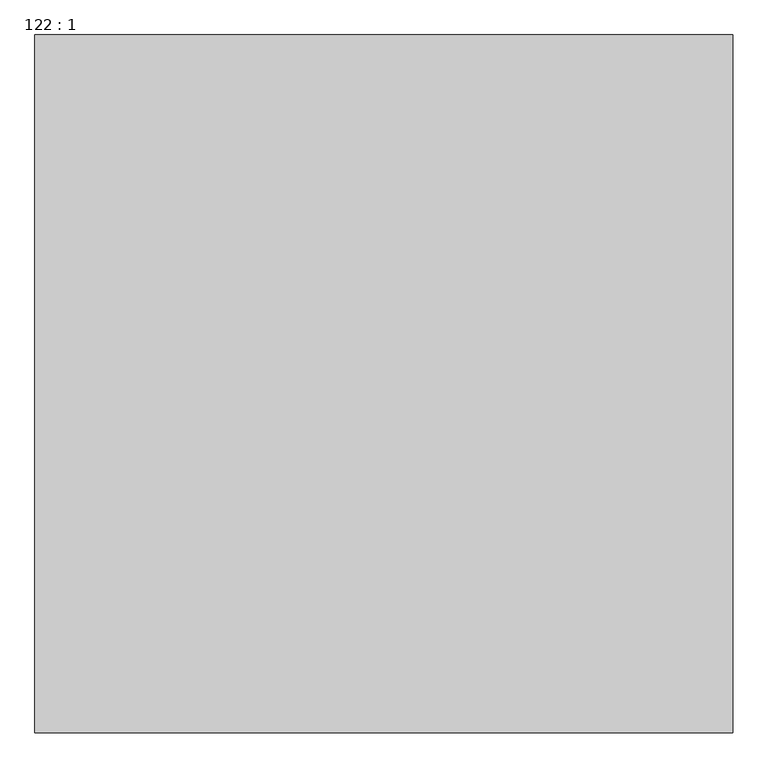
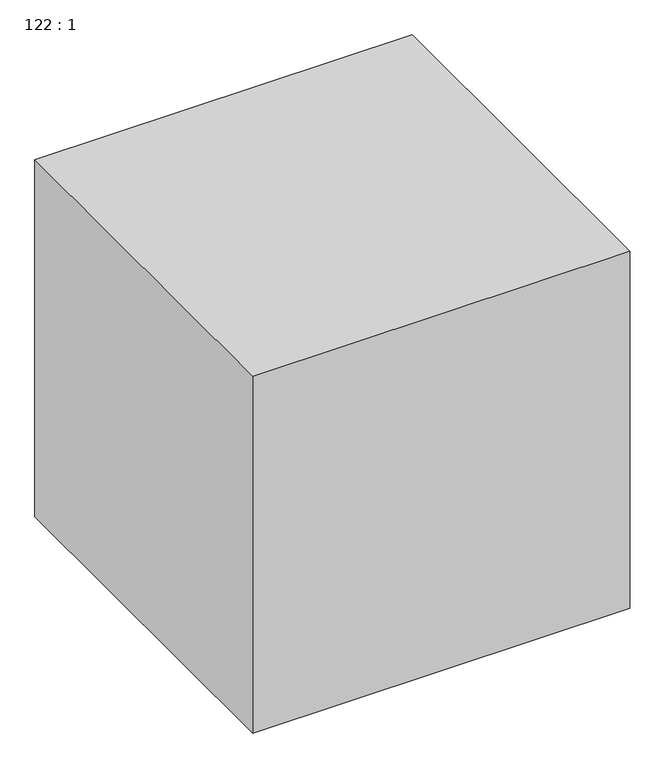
"""IFC4 building model written with IfcOpenShell, lengths in millimetres: proxy geometry, 122 : 1."""

from ifc_helpers import new_model, si_unit, origin, origin_with_axes, place, context, project, spatial, polyline, outline, extrude, source, transform, mapped, element, save


def proxy_122_1_a73eb2b4(model_context):
    return source(origin(), model_context, "Body", "SweptSolid", [
        extrude(outline(polyline([(-20307.9756708, 11335.2294472), (-20307.9756708, 10335.2294472), (-21307.9756708, 10335.2294472), (-21307.9756708, 11335.2294472), (-20307.9756708, 11335.2294472)])), origin_with_axes(), (0.0, 0.0, 1.0), 1000.0),
    ])


if __name__ == "__main__":
    model = new_model("IFC4")
    model_context = context("Model", 3, world=origin())
    ifc_project = project(units=[si_unit("LENGTHUNIT", "METRE", prefix="MILLI")], contexts=[model_context])
    site = spatial("IfcSite", under=ifc_project)
    building = spatial("IfcBuilding", under=site)
    placement = place(None, origin())
    proxy_122_1_shape = proxy_122_1_a73eb2b4(model_context)
    element("IfcBuildingElementProxy", 1, Name="122 : 1", ObjectType="122 : 1", at=placement, inside=building, context=model_context, shape_type="MappedRepresentation", body=[
        mapped(proxy_122_1_shape, transform((0.0, 0.0, 0.0), x_axis=(1.0, 0.0, 0.0), y_axis=(0.0, 1.0, 0.0), z_axis=(0.0, 0.0, 1.0))),
    ])
    save(model, "model.ifc")
